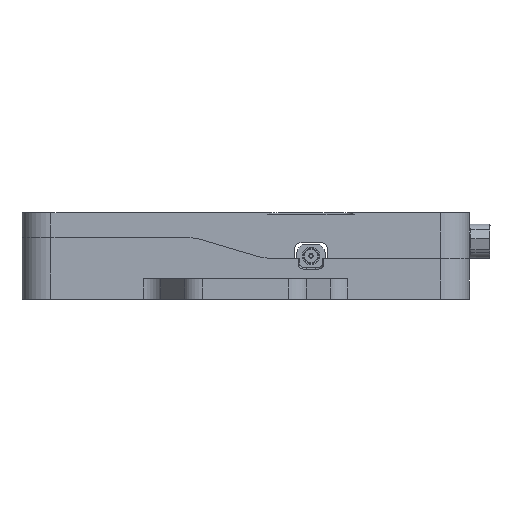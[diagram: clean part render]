
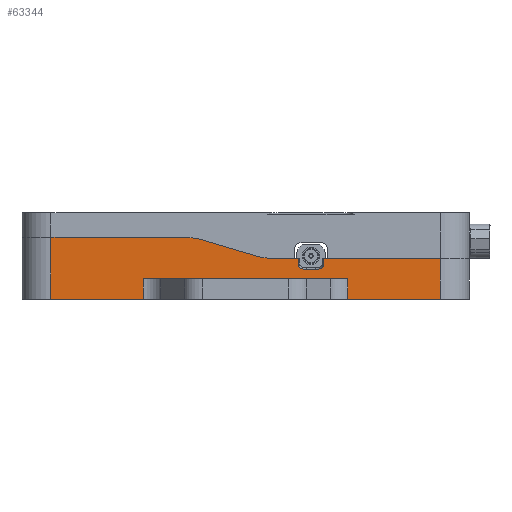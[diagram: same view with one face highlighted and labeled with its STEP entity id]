
A CAD part, left-side view. The second image highlights one B-rep face of the part: STEP entity #63344.
In plain terms, the highlighted planar face has unit normal (-1, 0, 0).
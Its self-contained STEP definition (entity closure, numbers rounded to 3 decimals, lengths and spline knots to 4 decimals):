
#2277=PLANE('',#68026);
#3762=FACE_OUTER_BOUND('',#7893,.T.);
#7893=EDGE_LOOP('',(#43325,#43326,#43327,#43328,#43329,#43330,#43331,#43332,
#43333,#43334,#43335,#43336,#43337,#43338,#43339,#43340,#43341,#43342));
#12411=LINE('',#99205,#17507);
#12483=LINE('',#99504,#17579);
#12485=LINE('',#99511,#17581);
#12539=LINE('',#99664,#17635);
#12541=LINE('',#99667,#17637);
#12542=LINE('',#99669,#17638);
#12543=LINE('',#99671,#17639);
#12544=LINE('',#99673,#17640);
#12545=LINE('',#99677,#17641);
#12546=LINE('',#99681,#17642);
#12547=LINE('',#99683,#17643);
#12548=LINE('',#99687,#17644);
#12549=LINE('',#99691,#17645);
#12550=LINE('',#99692,#17646);
#17507=VECTOR('',#77064,0.3937);
#17579=VECTOR('',#77362,0.3937);
#17581=VECTOR('',#77368,0.3937);
#17635=VECTOR('',#77518,0.3937);
#17637=VECTOR('',#77522,0.3937);
#17638=VECTOR('',#77523,0.3937);
#17639=VECTOR('',#77524,0.3937);
#17640=VECTOR('',#77525,0.3937);
#17641=VECTOR('',#77528,0.3937);
#17642=VECTOR('',#77531,0.3937);
#17643=VECTOR('',#77532,0.3937);
#17644=VECTOR('',#77535,0.3937);
#17645=VECTOR('',#77538,0.3937);
#17646=VECTOR('',#77539,0.3937);
#22635=CIRCLE('',#68027,0.0313);
#22636=CIRCLE('',#68028,0.0313);
#22637=CIRCLE('',#68029,0.4);
#22638=CIRCLE('',#68030,0.4);
#26686=VERTEX_POINT('',#99202);
#26687=VERTEX_POINT('',#99204);
#26800=VERTEX_POINT('',#99501);
#26801=VERTEX_POINT('',#99503);
#26803=VERTEX_POINT('',#99508);
#26804=VERTEX_POINT('',#99510);
#26856=VERTEX_POINT('',#99668);
#26857=VERTEX_POINT('',#99670);
#26858=VERTEX_POINT('',#99672);
#26859=VERTEX_POINT('',#99674);
#26860=VERTEX_POINT('',#99676);
#26861=VERTEX_POINT('',#99678);
#26862=VERTEX_POINT('',#99680);
#26863=VERTEX_POINT('',#99682);
#26864=VERTEX_POINT('',#99684);
#26865=VERTEX_POINT('',#99686);
#26866=VERTEX_POINT('',#99688);
#26867=VERTEX_POINT('',#99690);
#32694=EDGE_CURVE('',#26687,#26686,#12411,.T.);
#32839=EDGE_CURVE('',#26800,#26801,#12483,.T.);
#32843=EDGE_CURVE('',#26803,#26804,#12485,.T.);
#32921=EDGE_CURVE('',#26687,#26803,#12539,.T.);
#32923=EDGE_CURVE('',#26801,#26686,#12541,.T.);
#32924=EDGE_CURVE('',#26856,#26800,#12542,.T.);
#32925=EDGE_CURVE('',#26856,#26857,#12543,.T.);
#32926=EDGE_CURVE('',#26857,#26858,#12544,.T.);
#32927=EDGE_CURVE('',#26859,#26858,#22635,.T.);
#32928=EDGE_CURVE('',#26859,#26860,#12545,.T.);
#32929=EDGE_CURVE('',#26861,#26860,#22636,.T.);
#32930=EDGE_CURVE('',#26861,#26862,#12546,.T.);
#32931=EDGE_CURVE('',#26862,#26863,#12547,.T.);
#32932=EDGE_CURVE('',#26863,#26864,#22637,.T.);
#32933=EDGE_CURVE('',#26864,#26865,#12548,.T.);
#32934=EDGE_CURVE('',#26865,#26866,#22638,.T.);
#32935=EDGE_CURVE('',#26866,#26867,#12549,.T.);
#32936=EDGE_CURVE('',#26804,#26867,#12550,.T.);
#43325=ORIENTED_EDGE('',*,*,#32923,.F.);
#43326=ORIENTED_EDGE('',*,*,#32839,.F.);
#43327=ORIENTED_EDGE('',*,*,#32924,.F.);
#43328=ORIENTED_EDGE('',*,*,#32925,.T.);
#43329=ORIENTED_EDGE('',*,*,#32926,.T.);
#43330=ORIENTED_EDGE('',*,*,#32927,.F.);
#43331=ORIENTED_EDGE('',*,*,#32928,.T.);
#43332=ORIENTED_EDGE('',*,*,#32929,.F.);
#43333=ORIENTED_EDGE('',*,*,#32930,.T.);
#43334=ORIENTED_EDGE('',*,*,#32931,.T.);
#43335=ORIENTED_EDGE('',*,*,#32932,.T.);
#43336=ORIENTED_EDGE('',*,*,#32933,.T.);
#43337=ORIENTED_EDGE('',*,*,#32934,.T.);
#43338=ORIENTED_EDGE('',*,*,#32935,.T.);
#43339=ORIENTED_EDGE('',*,*,#32936,.F.);
#43340=ORIENTED_EDGE('',*,*,#32843,.F.);
#43341=ORIENTED_EDGE('',*,*,#32921,.F.);
#43342=ORIENTED_EDGE('',*,*,#32694,.T.);
#63344=ADVANCED_FACE('',(#3762),#2277,.T.);
#68026=AXIS2_PLACEMENT_3D('',#99666,#77520,#77521);
#68027=AXIS2_PLACEMENT_3D('',#99675,#77526,#77527);
#68028=AXIS2_PLACEMENT_3D('',#99679,#77529,#77530);
#68029=AXIS2_PLACEMENT_3D('',#99685,#77533,#77534);
#68030=AXIS2_PLACEMENT_3D('',#99689,#77536,#77537);
#77064=DIRECTION('',(0.,-1.,0.));
#77362=DIRECTION('',(0.,1.,0.));
#77368=DIRECTION('',(0.,1.,0.));
#77518=DIRECTION('',(0.,0.,-1.));
#77520=DIRECTION('center_axis',(-1.,0.,0.));
#77521=DIRECTION('ref_axis',(0.,-1.,0.));
#77522=DIRECTION('',(0.,0.,1.));
#77523=DIRECTION('',(0.,0.,-1.));
#77524=DIRECTION('',(0.,1.,0.));
#77525=DIRECTION('',(0.,0.,-1.));
#77526=DIRECTION('center_axis',(-1.,0.,0.));
#77527=DIRECTION('ref_axis',(0.,-0.707,-0.707));
#77528=DIRECTION('',(0.,1.,0.));
#77529=DIRECTION('center_axis',(-1.,0.,0.));
#77530=DIRECTION('ref_axis',(0.,0.707,-0.707));
#77531=DIRECTION('',(0.,0.,1.));
#77532=DIRECTION('',(0.,1.,0.));
#77533=DIRECTION('center_axis',(1.,0.,0.));
#77534=DIRECTION('ref_axis',(0.,0.,-1.));
#77535=DIRECTION('',(0.,0.958,0.287));
#77536=DIRECTION('center_axis',(-1.,0.,0.));
#77537=DIRECTION('ref_axis',(0.,0.,-1.));
#77538=DIRECTION('',(0.,1.,0.));
#77539=DIRECTION('',(0.,0.,1.));
#99202=CARTESIAN_POINT('',(-1.145,-0.6185,0.05));
#99204=CARTESIAN_POINT('',(-1.145,0.6185,0.05));
#99205=CARTESIAN_POINT('',(-1.145,-0.6185,0.05));
#99501=CARTESIAN_POINT('',(-1.145,-1.175,-0.075));
#99503=CARTESIAN_POINT('',(-1.145,-0.6185,-0.075));
#99504=CARTESIAN_POINT('',(-1.145,-1.175,-0.075));
#99508=CARTESIAN_POINT('',(-1.145,0.6185,-0.075));
#99510=CARTESIAN_POINT('',(-1.145,1.175,-0.075));
#99511=CARTESIAN_POINT('',(-1.145,0.6185,-0.075));
#99664=CARTESIAN_POINT('',(-1.145,0.6185,-0.025));
#99666=CARTESIAN_POINT('Origin',(-1.145,1.3,0.));
#99667=CARTESIAN_POINT('',(-1.145,-0.6185,-0.025));
#99668=CARTESIAN_POINT('',(-1.145,-1.175,0.1715));
#99669=CARTESIAN_POINT('',(-1.145,-1.175,0.));
#99670=CARTESIAN_POINT('',(-1.145,-0.4729,0.1715));
#99671=CARTESIAN_POINT('',(-1.145,-0.025,0.1715));
#99672=CARTESIAN_POINT('',(-1.145,-0.4729,0.1396));
#99673=CARTESIAN_POINT('',(-1.145,-0.4729,0.0542));
#99674=CARTESIAN_POINT('',(-1.145,-0.4417,0.1084));
#99675=CARTESIAN_POINT('Origin',(-1.145,-0.4417,0.1396));
#99676=CARTESIAN_POINT('',(-1.145,-0.3483,0.1084));
#99677=CARTESIAN_POINT('',(-1.145,0.4915,0.1084));
#99678=CARTESIAN_POINT('',(-1.145,-0.3171,0.1396));
#99679=CARTESIAN_POINT('Origin',(-1.145,-0.3483,0.1396));
#99680=CARTESIAN_POINT('',(-1.145,-0.3171,0.1715));
#99681=CARTESIAN_POINT('',(-1.145,-0.3171,0.0857));
#99682=CARTESIAN_POINT('',(-1.145,-0.1755,0.1715));
#99683=CARTESIAN_POINT('',(-1.145,-0.025,0.1715));
#99684=CARTESIAN_POINT('',(-1.145,-0.0609,0.1883));
#99685=CARTESIAN_POINT('Origin',(-1.145,-0.1755,0.5715));
#99686=CARTESIAN_POINT('',(-1.145,0.2532,0.2822));
#99687=CARTESIAN_POINT('',(-1.145,0.5378,0.3674));
#99688=CARTESIAN_POINT('',(-1.145,0.3678,0.299));
#99689=CARTESIAN_POINT('Origin',(-1.145,0.3678,-0.101));
#99690=CARTESIAN_POINT('',(-1.145,1.175,0.299));
#99691=CARTESIAN_POINT('',(-1.145,0.8339,0.299));
#99692=CARTESIAN_POINT('',(-1.145,1.175,0.));
